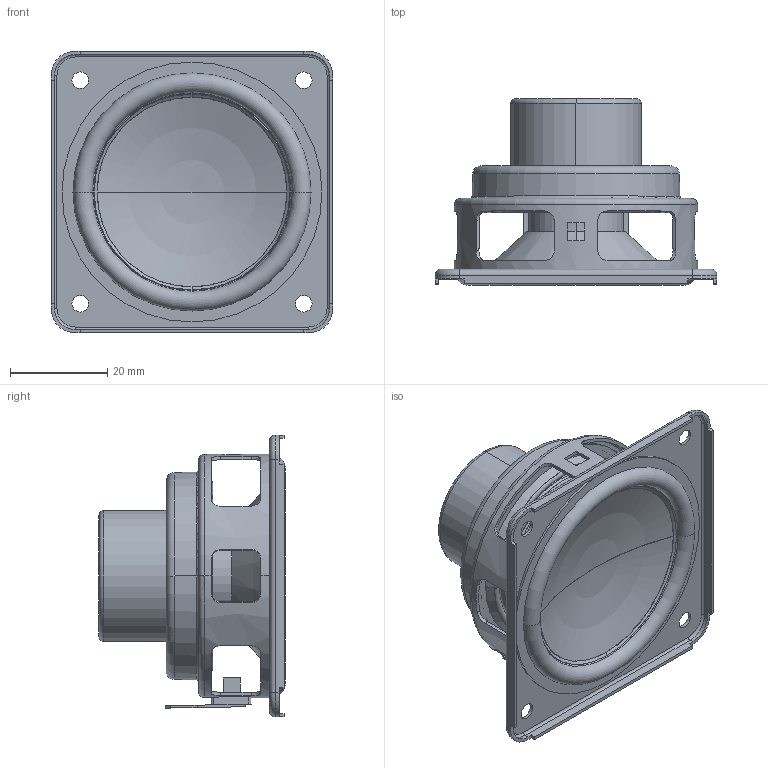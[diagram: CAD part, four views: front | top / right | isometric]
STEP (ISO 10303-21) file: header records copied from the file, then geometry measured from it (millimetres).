
FILE_DESCRIPTION((''),'2;1');
FILE_NAME('ST-2L11_ASM','2023-09-23T13:26:26',('54257'),(''),'CREO PARAMETRIC BY PTC INC, 2020053','CREO PARAMETRIC BY PTC INC, 2020053','');
FILE_SCHEMA(('CONFIG_CONTROL_DESIGN','SHAPE_APPEARANCE_LAYERS_GROUPS'));
Length unit declared in the file: millimetre
Products named in the file (12): 1323-00000_1_1_1; UYOK-_1_1_1; HA-1134_1_1_1; ST-TT-0038_1_1_1; HP-001_1_1; HM-001_1_1; HP-002_1_1; HC-001_1_1; HM-002_1_1; HV-; DUST_CAP-; ST-2L11_ASM
Assembly tree (11 placements, depth 2):
  ST-2L11_ASM
    1323-00000_1_1_1
    UYOK-_1_1_1
    HA-1134_1_1_1
    ST-TT-0038_1_1_1
    HP-001_1_1
    HM-001_1_1
    HP-002_1_1
    HC-001_1_1
    HM-002_1_1
    HV-
    DUST_CAP-
Bounding box: 58 x 38.3 x 58 mm (x, y, z)
Volume: 14244.6 mm3; surface area: 32358.9 mm2
Topology: 12 solids, 12 shells, 350 faces, 878 edges, 552 vertices
Faces by surface type: plane 133, cylinder 95, torus 60, cone 58, sphere 4
Entity records: 16011 total; most frequent: CARTESIAN_POINT 2147, DIRECTION 1966, ORIENTED_EDGE 1748, PRESENTATION_STYLE_ASSIGNMENT 1190, STYLED_ITEM 1190, EDGE_CURVE 874, CURVE_STYLE 862, AXIS2_PLACEMENT_3D 767
